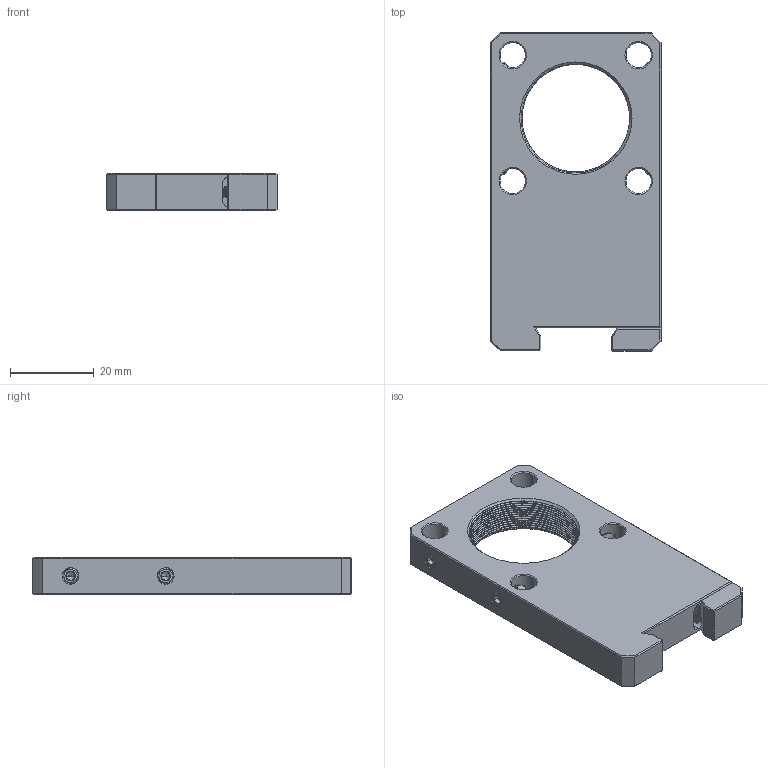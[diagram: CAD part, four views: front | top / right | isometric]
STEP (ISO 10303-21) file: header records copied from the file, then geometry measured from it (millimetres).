
FILE_DESCRIPTION((''),'2;1');
FILE_NAME('LRA30-A2_ASM','2024-12-04T16:18:24',('R&D'),(''),'CREO PARAMETRIC BY PTC INC, 2021063','CREO PARAMETRIC BY PTC INC, 2021063','');
FILE_SCHEMA(('CONFIG_CONTROL_DESIGN'));
Products named in the file (11): LRA30-A2-A3; LRA30-A2-A4; LRA30-A2-A5; LRA30-A2-A6; LRA30-A2-A7; LRA30-A2-A8; LRA30-A2-A9; LRA30-A2-B1; LRA30-A2-A2_ASM; LRA30-A2-A1_ASM; LRA30-A2_ASM
Assembly tree (10 placements, depth 4):
  LRA30-A2_ASM
    LRA30-A2-A1_ASM
      LRA30-A2-A2_ASM
        LRA30-A2-A3
        LRA30-A2-A4
        LRA30-A2-A5
        LRA30-A2-A6
        LRA30-A2-A7
        LRA30-A2-A8
        LRA30-A2-A9
        LRA30-A2-B1
Bounding box: 40.74 x 75.83 x 8.89 mm (x, y, z)
Volume: 20288.3 mm3; surface area: 10191.4 mm2
Topology: 8 solids, 8 shells, 767 faces, 2030 edges, 1271 vertices
Faces by surface type: cylinder 279, bspline 232, plane 145, cone 107, extrusion 4
Entity records: 86323 total; most frequent: CARTESIAN_POINT 70010, ORIENTED_EDGE 4024, DIRECTION 2213, EDGE_CURVE 2012, VERTEX_POINT 1271, B_SPLINE_CURVE_WITH_KNOTS 1144, EDGE_LOOP 799, AXIS2_PLACEMENT_3D 776
